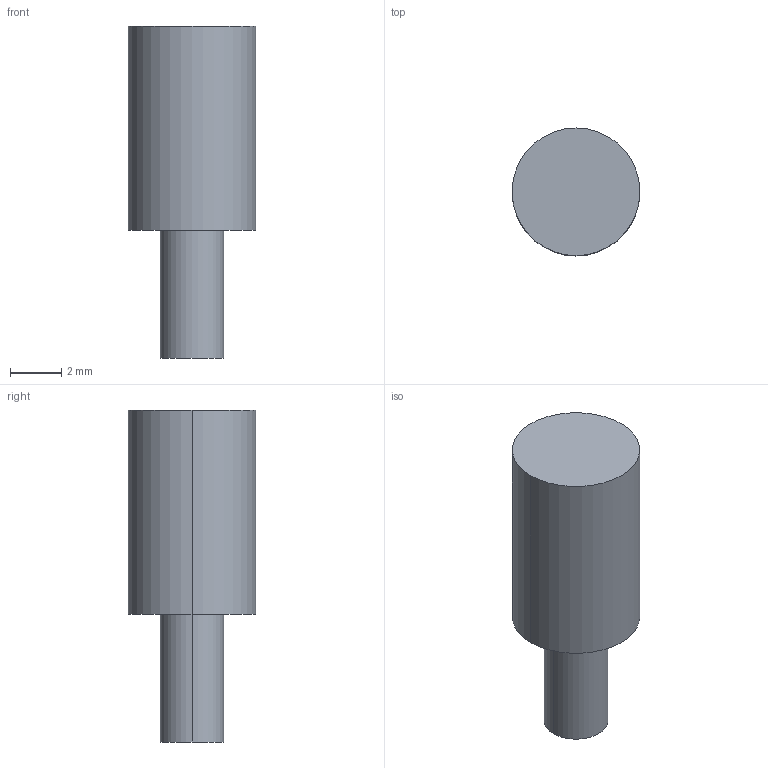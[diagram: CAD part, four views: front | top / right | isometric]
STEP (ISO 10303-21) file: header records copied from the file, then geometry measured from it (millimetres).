
FILE_DESCRIPTION (( 'STEP AP203' ), '1' );
FILE_NAME ('tr-s411-k.STEP', '2016-10-07T02:11:40', ( '' ), ( '' ), 'SwSTEP 2.0', 'SolidWorks 2014', '' );
FILE_SCHEMA (( 'CONFIG_CONTROL_DESIGN' ));
Length unit declared in the file: millimetre
Products named in the file (1): tr-s411-k
Bounding box: 5 x 5 x 13 mm (x, y, z)
Volume: 181.6 mm3; surface area: 204.2 mm2
Topology: 1 solids, 1 shells, 7 faces, 12 edges, 8 vertices
Faces by surface type: cylinder 4, plane 3
Entity records: 251 total; most frequent: DIRECTION 36, CARTESIAN_POINT 28, ORIENTED_EDGE 24, AXIS2_PLACEMENT_3D 16, EDGE_CURVE 12, VERTEX_POINT 8, CIRCLE 8, PERSON_AND_ORGANIZATION 8
